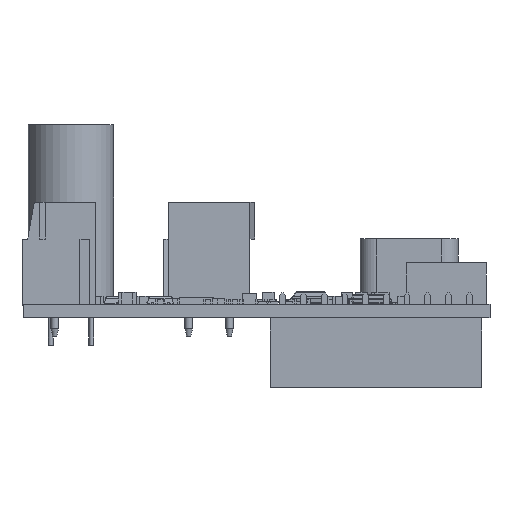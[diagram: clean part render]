
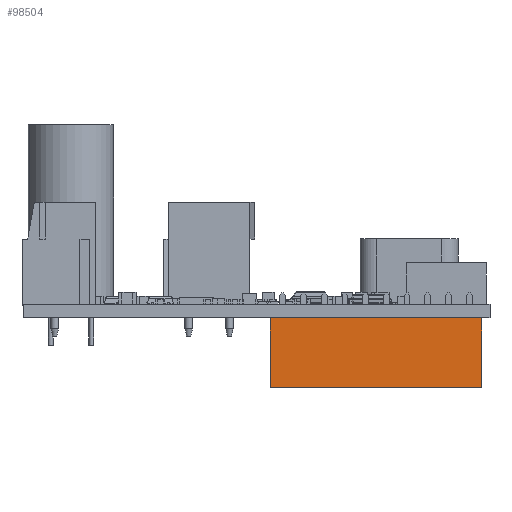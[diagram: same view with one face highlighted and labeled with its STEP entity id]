
A CAD part, left-side view. The second image highlights one B-rep face of the part: STEP entity #98504.
In plain terms, the highlighted planar face has unit normal (-1, 0, 0) as drawn and (0, 1, 0) by its records, which use the part's own axes.
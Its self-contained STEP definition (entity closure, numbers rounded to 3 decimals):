
#89895 = PLANE('',#89896);
#89896 = AXIS2_PLACEMENT_3D('',#89897,#89898,#89899);
#89897 = CARTESIAN_POINT('',(12.95,-1.25,4.25));
#89898 = DIRECTION('',(0.,0.,-1.));
#89899 = DIRECTION('',(-1.,0.,0.));
#91408 = EDGE_CURVE('',#91409,#91411,#91413,.T.);
#91409 = VERTEX_POINT('',#91410);
#91410 = CARTESIAN_POINT('',(12.95,1.25,4.25));
#91411 = VERTEX_POINT('',#91412);
#91412 = CARTESIAN_POINT('',(-12.95,1.25,4.25));
#91413 = SURFACE_CURVE('',#91414,(#91418,#91425),.PCURVE_S1.);
#91414 = LINE('',#91415,#91416);
#91415 = CARTESIAN_POINT('',(12.95,1.25,4.25));
#91416 = VECTOR('',#91417,1.);
#91417 = DIRECTION('',(-1.,0.,0.));
#91418 = PCURVE('',#89895,#91419);
#91419 = DEFINITIONAL_REPRESENTATION('',(#91420),#91424);
#91420 = LINE('',#91421,#91422);
#91421 = CARTESIAN_POINT('',(0.,2.5));
#91422 = VECTOR('',#91423,1.);
#91423 = DIRECTION('',(1.,0.));
#91424 = ( GEOMETRIC_REPRESENTATION_CONTEXT(2) 
PARAMETRIC_REPRESENTATION_CONTEXT() REPRESENTATION_CONTEXT('2D SPACE',''
  ) );
#91425 = PCURVE('',#91426,#91431);
#91426 = PLANE('',#91427);
#91427 = AXIS2_PLACEMENT_3D('',#91428,#91429,#91430);
#91428 = CARTESIAN_POINT('',(0.,1.25,0.));
#91429 = DIRECTION('',(0.,-1.,0.));
#91430 = DIRECTION('',(0.,0.,-1.));
#91431 = DEFINITIONAL_REPRESENTATION('',(#91432),#91436);
#91432 = LINE('',#91433,#91434);
#91433 = CARTESIAN_POINT('',(-4.25,12.95));
#91434 = VECTOR('',#91435,1.);
#91435 = DIRECTION('',(0.,-1.));
#91436 = ( GEOMETRIC_REPRESENTATION_CONTEXT(2) 
PARAMETRIC_REPRESENTATION_CONTEXT() REPRESENTATION_CONTEXT('2D SPACE',''
  ) );
#91454 = PLANE('',#91455);
#91455 = AXIS2_PLACEMENT_3D('',#91456,#91457,#91458);
#91456 = CARTESIAN_POINT('',(-12.95,-1.25,4.25));
#91457 = DIRECTION('',(1.,0.,0.));
#91458 = DIRECTION('',(0.,0.,1.));
#91508 = PLANE('',#91509);
#91509 = AXIS2_PLACEMENT_3D('',#91510,#91511,#91512);
#91510 = CARTESIAN_POINT('',(12.95,-1.25,-4.25));
#91511 = DIRECTION('',(-1.,0.,0.));
#91512 = DIRECTION('',(0.,0.,-1.));
#98054 = EDGE_CURVE('',#91411,#98055,#98057,.T.);
#98055 = VERTEX_POINT('',#98056);
#98056 = CARTESIAN_POINT('',(-12.95,1.25,-4.25));
#98057 = SURFACE_CURVE('',#98058,(#98062,#98069),.PCURVE_S1.);
#98058 = LINE('',#98059,#98060);
#98059 = CARTESIAN_POINT('',(-12.95,1.25,4.25));
#98060 = VECTOR('',#98061,1.);
#98061 = DIRECTION('',(0.,0.,-1.));
#98062 = PCURVE('',#91454,#98063);
#98063 = DEFINITIONAL_REPRESENTATION('',(#98064),#98068);
#98064 = LINE('',#98065,#98066);
#98065 = CARTESIAN_POINT('',(0.,-2.5));
#98066 = VECTOR('',#98067,1.);
#98067 = DIRECTION('',(-1.,0.));
#98068 = ( GEOMETRIC_REPRESENTATION_CONTEXT(2) 
PARAMETRIC_REPRESENTATION_CONTEXT() REPRESENTATION_CONTEXT('2D SPACE',''
  ) );
#98069 = PCURVE('',#91426,#98070);
#98070 = DEFINITIONAL_REPRESENTATION('',(#98071),#98075);
#98071 = LINE('',#98072,#98073);
#98072 = CARTESIAN_POINT('',(-4.25,-12.95));
#98073 = VECTOR('',#98074,1.);
#98074 = DIRECTION('',(1.,0.));
#98075 = ( GEOMETRIC_REPRESENTATION_CONTEXT(2) 
PARAMETRIC_REPRESENTATION_CONTEXT() REPRESENTATION_CONTEXT('2D SPACE',''
  ) );
#98093 = PLANE('',#98094);
#98094 = AXIS2_PLACEMENT_3D('',#98095,#98096,#98097);
#98095 = CARTESIAN_POINT('',(-12.95,-1.25,-4.25));
#98096 = DIRECTION('',(0.,0.,1.));
#98097 = DIRECTION('',(1.,0.,0.));
#98504 = ADVANCED_FACE('',(#98505),#91426,.F.);
#98505 = FACE_BOUND('',#98506,.T.);
#98506 = EDGE_LOOP('',(#98507,#98508,#98531,#98552));
#98507 = ORIENTED_EDGE('',*,*,#91408,.F.);
#98508 = ORIENTED_EDGE('',*,*,#98509,.F.);
#98509 = EDGE_CURVE('',#98510,#91409,#98512,.T.);
#98510 = VERTEX_POINT('',#98511);
#98511 = CARTESIAN_POINT('',(12.95,1.25,-4.25));
#98512 = SURFACE_CURVE('',#98513,(#98517,#98524),.PCURVE_S1.);
#98513 = LINE('',#98514,#98515);
#98514 = CARTESIAN_POINT('',(12.95,1.25,-4.25));
#98515 = VECTOR('',#98516,1.);
#98516 = DIRECTION('',(0.,0.,1.));
#98517 = PCURVE('',#91426,#98518);
#98518 = DEFINITIONAL_REPRESENTATION('',(#98519),#98523);
#98519 = LINE('',#98520,#98521);
#98520 = CARTESIAN_POINT('',(4.25,12.95));
#98521 = VECTOR('',#98522,1.);
#98522 = DIRECTION('',(-1.,0.));
#98523 = ( GEOMETRIC_REPRESENTATION_CONTEXT(2) 
PARAMETRIC_REPRESENTATION_CONTEXT() REPRESENTATION_CONTEXT('2D SPACE',''
  ) );
#98524 = PCURVE('',#91508,#98525);
#98525 = DEFINITIONAL_REPRESENTATION('',(#98526),#98530);
#98526 = LINE('',#98527,#98528);
#98527 = CARTESIAN_POINT('',(0.,-2.5));
#98528 = VECTOR('',#98529,1.);
#98529 = DIRECTION('',(-1.,0.));
#98530 = ( GEOMETRIC_REPRESENTATION_CONTEXT(2) 
PARAMETRIC_REPRESENTATION_CONTEXT() REPRESENTATION_CONTEXT('2D SPACE',''
  ) );
#98531 = ORIENTED_EDGE('',*,*,#98532,.F.);
#98532 = EDGE_CURVE('',#98055,#98510,#98533,.T.);
#98533 = SURFACE_CURVE('',#98534,(#98538,#98545),.PCURVE_S1.);
#98534 = LINE('',#98535,#98536);
#98535 = CARTESIAN_POINT('',(-12.95,1.25,-4.25));
#98536 = VECTOR('',#98537,1.);
#98537 = DIRECTION('',(1.,0.,0.));
#98538 = PCURVE('',#91426,#98539);
#98539 = DEFINITIONAL_REPRESENTATION('',(#98540),#98544);
#98540 = LINE('',#98541,#98542);
#98541 = CARTESIAN_POINT('',(4.25,-12.95));
#98542 = VECTOR('',#98543,1.);
#98543 = DIRECTION('',(0.,1.));
#98544 = ( GEOMETRIC_REPRESENTATION_CONTEXT(2) 
PARAMETRIC_REPRESENTATION_CONTEXT() REPRESENTATION_CONTEXT('2D SPACE',''
  ) );
#98545 = PCURVE('',#98093,#98546);
#98546 = DEFINITIONAL_REPRESENTATION('',(#98547),#98551);
#98547 = LINE('',#98548,#98549);
#98548 = CARTESIAN_POINT('',(0.,2.5));
#98549 = VECTOR('',#98550,1.);
#98550 = DIRECTION('',(1.,0.));
#98551 = ( GEOMETRIC_REPRESENTATION_CONTEXT(2) 
PARAMETRIC_REPRESENTATION_CONTEXT() REPRESENTATION_CONTEXT('2D SPACE',''
  ) );
#98552 = ORIENTED_EDGE('',*,*,#98054,.F.);
